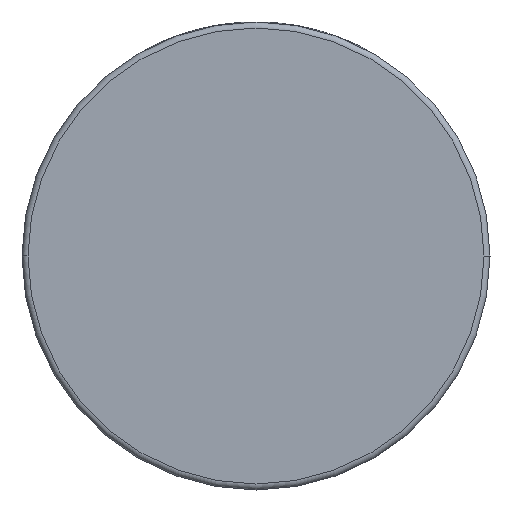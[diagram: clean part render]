
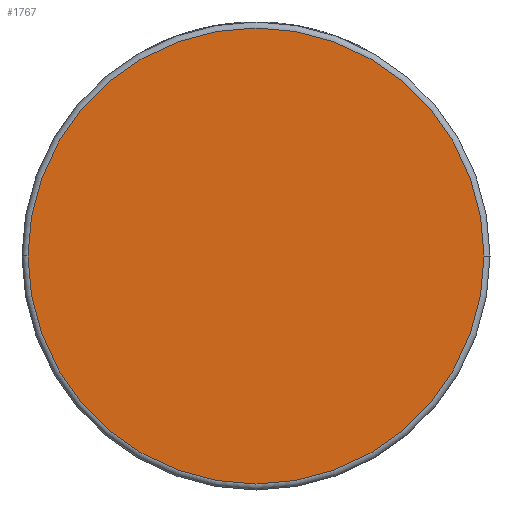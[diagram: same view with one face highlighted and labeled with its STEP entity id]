
A CAD part, front view. The second image highlights one B-rep face of the part: STEP entity #1767.
In plain terms, the highlighted planar face has unit normal (0, -1, 0).
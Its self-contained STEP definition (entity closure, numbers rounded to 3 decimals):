
#27 = DIRECTION ( 'NONE',  ( 0., -1., 0. ) ) ;
#212 = CIRCLE ( 'NONE', #1137, 38. ) ;
#385 = DIRECTION ( 'NONE',  ( 0., -1., 0. ) ) ;
#768 = FACE_OUTER_BOUND ( 'NONE', #1311, .T. ) ;
#1048 = PLANE ( 'NONE',  #1271 ) ;
#1137 = AXIS2_PLACEMENT_3D ( 'NONE', #2373, #27, #3005 ) ;
#1271 = AXIS2_PLACEMENT_3D ( 'NONE', #3760, #385, #3006 ) ;
#1282 = DIRECTION ( 'NONE',  ( 1., 0., 0. ) ) ;
#1288 = EDGE_CURVE ( 'NONE', #1449, #4223, #2036, .T. ) ;
#1311 = EDGE_LOOP ( 'NONE', ( #3032, #4253 ) ) ;
#1449 = VERTEX_POINT ( 'NONE', #3928 ) ;
#1767 = ADVANCED_FACE ( 'NONE', ( #768 ), #1048, .T. ) ;
#2036 = CIRCLE ( 'NONE', #4060, 38. ) ;
#2373 = CARTESIAN_POINT ( 'NONE',  ( 0., -26.5, 0. ) ) ;
#2515 = EDGE_CURVE ( 'NONE', #4223, #1449, #212, .T. ) ;
#3005 = DIRECTION ( 'NONE',  ( 1., 0., 0. ) ) ;
#3006 = DIRECTION ( 'NONE',  ( 1., 0., 0. ) ) ;
#3032 = ORIENTED_EDGE ( 'NONE', *, *, #1288, .T. ) ;
#3584 = CARTESIAN_POINT ( 'NONE',  ( 0., -26.5, 0. ) ) ;
#3715 = CARTESIAN_POINT ( 'NONE',  ( -38., -26.5, 0. ) ) ;
#3760 = CARTESIAN_POINT ( 'NONE',  ( 39., -26.5, 0. ) ) ;
#3928 = CARTESIAN_POINT ( 'NONE',  ( 38., -26.5, 0. ) ) ;
#4060 = AXIS2_PLACEMENT_3D ( 'NONE', #3584, #4277, #1282 ) ;
#4223 = VERTEX_POINT ( 'NONE', #3715 ) ;
#4253 = ORIENTED_EDGE ( 'NONE', *, *, #2515, .T. ) ;
#4277 = DIRECTION ( 'NONE',  ( 0., -1., 0. ) ) ;
